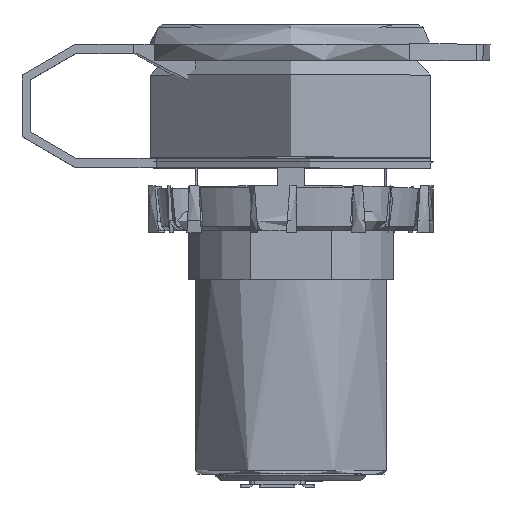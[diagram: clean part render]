
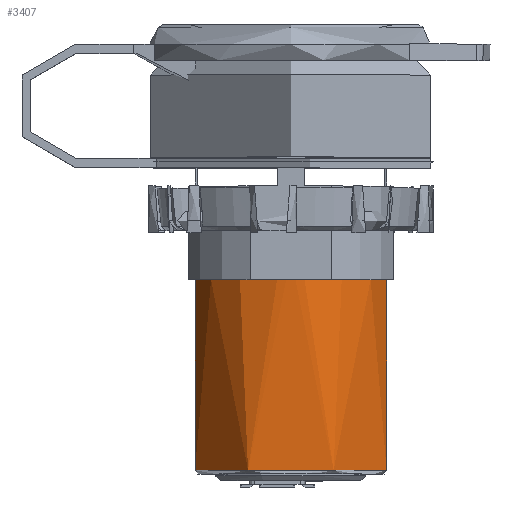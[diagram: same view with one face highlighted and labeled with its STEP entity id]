
A CAD part, top view. The second image highlights one B-rep face of the part: STEP entity #3407.
In plain terms, the highlighted cylindrical face has radius 10.15 mm (diameter 20.3 mm), a partial arc.
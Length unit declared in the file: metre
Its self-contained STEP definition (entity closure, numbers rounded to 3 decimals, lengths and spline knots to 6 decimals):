
#3270=CARTESIAN_POINT('',(1.69934,0.059479,0.00217));
#3271=VERTEX_POINT('',#3270);
#3274=CARTESIAN_POINT('',(1.689425,0.059479,0.));
#3275=DIRECTION('',(0.,-1.,0.));
#3276=DIRECTION('',(1.,0.,0.));
#3277=AXIS2_PLACEMENT_3D('',#3274,#3275,#3276);
#3278=CIRCLE('',#3277,0.01015);
#3279=CARTESIAN_POINT('',(1.67951,0.059479,0.00217));
#3280=VERTEX_POINT('',#3279);
#3281=EDGE_CURVE('',#3271,#3280,#3278,.T.);
#3309=CARTESIAN_POINT('',(1.690846,0.079179,0.01005));
#3310=VERTEX_POINT('',#3309);
#3311=CARTESIAN_POINT('',(1.688004,0.079179,0.01005));
#3312=VERTEX_POINT('',#3311);
#3315=CARTESIAN_POINT('',(1.689425,0.079179,0.));
#3316=DIRECTION('',(0.,1.,0.));
#3317=DIRECTION('',(-1.,0.,0.));
#3318=AXIS2_PLACEMENT_3D('',#3315,#3316,#3317);
#3319=CIRCLE('',#3318,0.01015);
#3320=EDGE_CURVE('',#3312,#3310,#3319,.T.);
#3341=CARTESIAN_POINT('',(1.689425,0.079179,0.));
#3342=DIRECTION('',(0.,1.,0.));
#3343=DIRECTION('',(-1.,0.,0.));
#3344=AXIS2_PLACEMENT_3D('',#3341,#3342,#3343);
#3345=CIRCLE('',#3344,0.01015);
#3346=CARTESIAN_POINT('',(1.69934,0.079179,0.00217));
#3347=VERTEX_POINT('',#3346);
#3348=EDGE_CURVE('',#3310,#3347,#3345,.T.);
#3376=CARTESIAN_POINT('',(1.689425,0.077179,0.));
#3377=DIRECTION('',(0.,-1.,0.));
#3378=DIRECTION('',(-1.,0.,0.));
#3379=AXIS2_PLACEMENT_3D('',#3376,#3377,#3378);
#3380=CYLINDRICAL_SURFACE('',#3379,0.01015);
#3381=CARTESIAN_POINT('',(1.69934,0.069454,0.00217));
#3382=DIRECTION('',(0.,-1.,0.));
#3383=VECTOR('',#3382,1.);
#3384=LINE('',#3381,#3383);
#3385=EDGE_CURVE('',#3347,#3271,#3384,.T.);
#3386=ORIENTED_EDGE('',*,*,#3385,.F.);
#3387=ORIENTED_EDGE('',*,*,#3348,.F.);
#3388=ORIENTED_EDGE('',*,*,#3320,.F.);
#3389=CARTESIAN_POINT('',(1.689425,0.079179,0.));
#3390=DIRECTION('',(0.,1.,0.));
#3391=DIRECTION('',(-1.,0.,0.));
#3392=AXIS2_PLACEMENT_3D('',#3389,#3390,#3391);
#3393=CIRCLE('',#3392,0.01015);
#3394=CARTESIAN_POINT('',(1.67951,0.079179,0.00217));
#3395=VERTEX_POINT('',#3394);
#3396=EDGE_CURVE('',#3395,#3312,#3393,.T.);
#3397=ORIENTED_EDGE('',*,*,#3396,.F.);
#3398=CARTESIAN_POINT('',(1.67951,0.077179,0.00217));
#3399=DIRECTION('',(0.,-1.,0.));
#3400=VECTOR('',#3399,1.);
#3401=LINE('',#3398,#3400);
#3402=EDGE_CURVE('',#3395,#3280,#3401,.T.);
#3403=ORIENTED_EDGE('',*,*,#3402,.T.);
#3404=ORIENTED_EDGE('',*,*,#3281,.F.);
#3405=EDGE_LOOP('',(#3386,#3387,#3388,#3397,#3403,#3404));
#3406=FACE_BOUND('',#3405,.T.);
#3407=ADVANCED_FACE('',(#3406),#3380,.T.);
